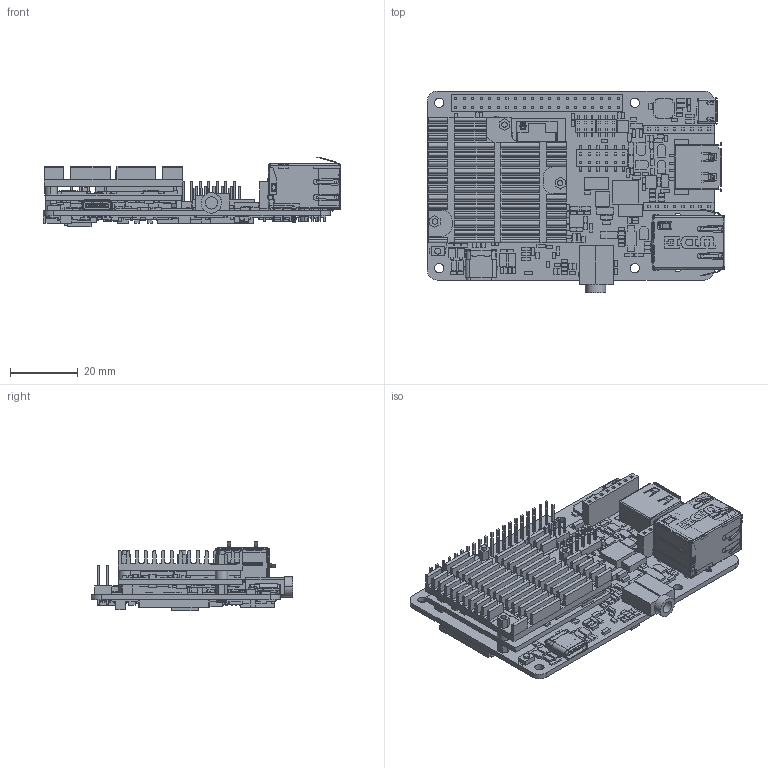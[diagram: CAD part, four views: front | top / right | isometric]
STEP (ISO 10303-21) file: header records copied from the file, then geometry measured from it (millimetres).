
FILE_DESCRIPTION((''),'2;1');
FILE_NAME('PICO-PI-IMX6G-HS06_ASM','2020-12-31T',('gary'),(''),'CREO PARAMETRIC BY PTC INC, 2014350','CREO PARAMETRIC BY PTC INC, 2014350','');
FILE_SCHEMA(('AUTOMOTIVE_DESIGN { 1 0 10303 214 1 1 1 1 }'));
Products named in the file (116): TN132_PCB; UT11113-11604-7H-327-0708-X2__1; UT11113-11604-7H-327-0708-X2__2; UT11113-11604-7H-327-0708-X2_1_ASM; AUDIO_PJD-035-47B; LCD_FPC_CONN_50PIN; USB_TOUCH_1_1_2; PINHERADER_2X20_P254; FEMALE_HEADER_1X8; SW_MPTCFGP2-V; CONN_FP124-404M4; PIN_HOLDER_2X6_P254_SMT; PIN_HOLDER_2X3_P02_SMT; DHNF_04F_V_B; USB_KUAS19-4XX2X0-19; MIRCO_USB_KMR1; CONN_DF40C-70DP-04V; RT7-M110_RT7-M1100A1G-10PI-8799; RT7-M110_RT7-M1100A1G-10PI-8804; RM1-C110-SW_____-1_RM1-C11-8805; RM1-C110-SW_____-1_RM1-C11-8806; RM1-C110-SW_____-1_RM1-C11-8807; RT7-M110_RT7-M1100A1G-10PI-8808; RT7-M110_RT7-M1100A1G-10PI-8809; RT7-P110-J3_RT7-P110GA0G-1-SOLI; RT7-M110_RT7-M1100A1G-10PI-8811; RT7_LED_1-1-SOLID2; RT7_LED_1-1-SOLID1; RT7-M110_RT7-M1100A1G-10PI-8814; RT7-S110-W_11111-1-SOLID1; RT7-M110_RT7-M1100A1G-10PI-8816; RT7-M110_RT7-M1100A1G-10PI-8817; RM1-C110-SW_____-1_RM1-C11-8818; RT7-P140_1-1-SOLID1; RT7-P130_RT7-P130000G-1-SOLID1; RM1-C110-SW_____-1_RM1-C11-8821; RT7-M110_RT7-M1100A1G-10PI-8822; RM1-C110-SW_____-1_RM1-C11-8823; RT7-M110_RT7-M1100A1G-10PI-8824; RM1-C110-SW_____-1_RM1-C11-8825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
Assembly tree (843 placements, depth 4):
  PICO-PI-IMX6G-HS06_ASM
    TN132_ASM_ASM
      TN132_PCB
      UT11113-11604-7H-327-0708-X2_1_ASM
        UT11113-11604-7H-327-0708-X2__1
        UT11113-11604-7H-327-0708-X2__2
      AUDIO_PJD-035-47B
      LCD_FPC_CONN_50PIN
      USB_TOUCH_1_1_2
      PINHERADER_2X20_P254
      FEMALE_HEADER_1X8  x2
      SW_MPTCFGP2-V
      CONN_FP124-404M4
      PIN_HOLDER_2X6_P254_SMT
      PIN_HOLDER_2X3_P02_SMT  x2
      DHNF_04F_V_B
      USB_KUAS19-4XX2X0-19
      MIRCO_USB_KMR1
      CONN_DF40C-70DP-04V  x3
      RT7-174A-XXXX-10PIN_1_ASM
        RT7-M110_RT7-M1100A1G-10PI-8799
        RT7-M110_RT7-M1100A1G-10PI-8804
        RM1-C110-SW_____-1_RM1-C11-8805
        RM1-C110-SW_____-1_RM1-C11-8806
        RM1-C110-SW_____-1_RM1-C11-8807
        RT7-M110_RT7-M1100A1G-10PI-8808
        RT7-M110_RT7-M1100A1G-10PI-8809
        RT7-P110-J3_RT7-P110GA0G-1-SOLI
        RT7-M110_RT7-M1100A1G-10PI-8811
        RT7_LED_1-1-SOLID2
        RT7_LED_1-1-SOLID1
        RT7-M110_RT7-M1100A1G-10PI-8814
        RT7-S110-W_11111-1-SOLID1
        RT7-M110_RT7-M1100A1G-10PI-8816
        RT7-M110_RT7-M1100A1G-10PI-8817
        RM1-C110-SW_____-1_RM1-C11-8818
        RT7-P140_1-1-SOLID1
        RT7-P130_RT7-P130000G-1-SOLID1
        RM1-C110-SW_____-1_RM1-C11-8821
        RT7-M110_RT7-M1100A1G-10PI-8822
        RM1-C110-SW_____-1_RM1-C11-8823
        RT7-M110_RT7-M1100A1G-10PI-8824
        RM1-C110-SW_____-1_RM1-C11-8825
        RT7-M110_RT7-M1100A1G-10PI-8826
        RT7-M110_RT7-M1100A1G-10PI-8827
        RM1-C110-SW_____-1_RM1-C11-8828
      TN132_B1_1230_ASM
        MYSOT23_BAT54C_A
        QFN32_D5_5X5_GND
        YZC_R-XBGA-N6_C2_11X16
        QFN32_D5_5X5_G122_9P
        SOT23_IOG
        SOT23_GDS  x2
        1SS355_AC  x2
        SOT23_BCE  x4
        BAT54S_132  x4
        TSSOP8_D65
        SM0805R  x4
        L4242H20_FDSD0420
        SMB214AA_AC  x2
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Bounding box: 88.09 x 59.8 x 20.58 mm (x, y, z)
Volume: 23796 mm3; surface area: 47923.8 mm2
Topology: 837 solids, 837 shells, 11813 faces, 29238 edges, 19339 vertices
Faces by surface type: plane 10336, cylinder 1330, bspline 76, torus 34, cone 25, sphere 10, extrusion 2
Entity records: 264916 total; most frequent: CARTESIAN_POINT 38686, DIRECTION 33191, ORIENTED_EDGE 31666, EDGE_CURVE 15833, PRESENTATION_STYLE_ASSIGNMENT 15103, STYLED_ITEM 15103, CURVE_STYLE 15041, VECTOR 12835
